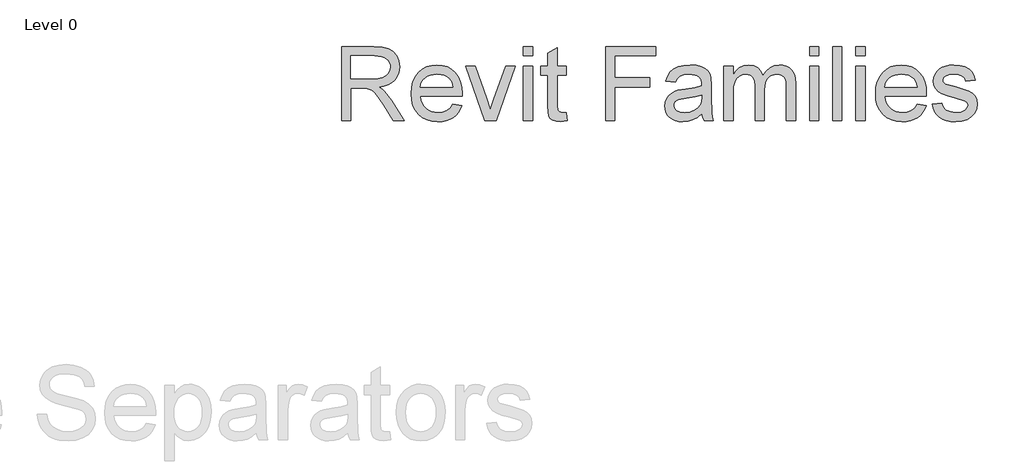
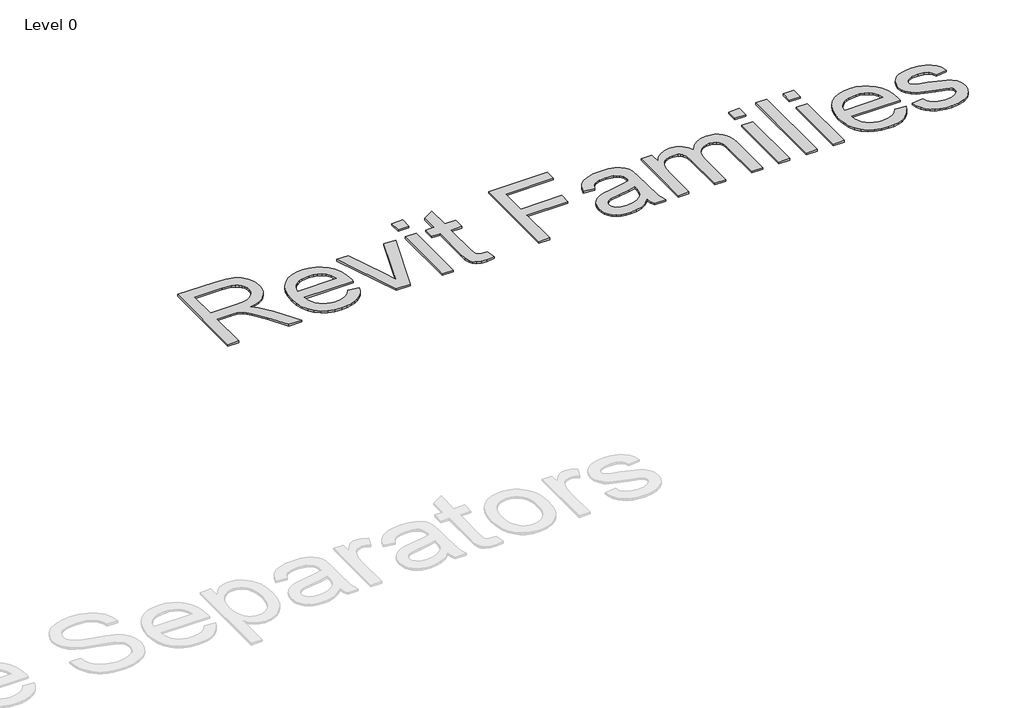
# One storey, part 8 of 15: 1 proxy.
"""IFC4 building model written with IfcOpenShell, lengths in millimetres."""

import ifcopenshell
import ifcopenshell.guid

model = None  # the IFC model being written
_history = None  # IfcOwnerHistory: only IFC2X3 demands one
_inside = {}  # id of a spatial element -> (the spatial element, [elements in it])
_under = {}  # id of a project, library or spatial element -> (it, [spatial elements below it])
_declared = {}  # id of a project -> (the project, [libraries it declares])
_typed = {}  # id of a type object -> (the type object, [elements of that type])
_made_of = {}  # id of a material, layer set ... -> (it, [elements and type objects made of it])


def new_model(schema):
    """Start an empty IFC model of exactly this schema.

    Asked for "IFC4X3", IfcOpenShell would pick the latest addendum, in which some entities
    have other attributes; the version numbers below select the first issue.
    IFC2X3 requires an IfcOwnerHistory on every rooted entity: one is made here for all.
    """
    global model, _history
    if schema == "IFC4X3":
        model = ifcopenshell.file(schema_version=(4, 3, 0, 0))
    else:
        model = ifcopenshell.file(schema=schema)
    _inside.clear()
    _under.clear()
    _declared.clear()
    _typed.clear()
    _made_of.clear()
    _history = None
    if model.schema == "IFC2X3":
        org = make("IfcOrganization", Name="unknown")
        user = make(
            "IfcPersonAndOrganization",
            ThePerson=make("IfcPerson", FamilyName="unknown"),
            TheOrganization=org,
        )
        app = make(
            "IfcApplication",
            ApplicationDeveloper=org,
            Version="unknown",
            ApplicationFullName="unknown",
            ApplicationIdentifier="unknown",
        )
        _history = make(
            "IfcOwnerHistory",
            OwningUser=user,
            OwningApplication=app,
            ChangeAction="ADDED",
            CreationDate=0,
        )
    return model


def make(cls, **values):
    """One entity of the class cls with the attributes given. An attribute that is None is left unset."""
    return model.create_entity(
        cls, **{name: value for name, value in values.items() if value is not None}
    )


def rooted(cls, **values):
    """An entity with a GlobalId (a new one), such as an element, a storey or a relation."""
    return make(cls, GlobalId=ifcopenshell.guid.new(), OwnerHistory=_history, **values)


def si_unit(unit_type, name, prefix=None):
    """IfcSIUnit, for example si_unit("LENGTHUNIT", "METRE", prefix="MILLI")."""
    return make("IfcSIUnit", UnitType=unit_type, Prefix=prefix, Name=name)


def assignment(units):
    """IfcUnitAssignment: the units of a project."""
    return None if units is None else make("IfcUnitAssignment", Units=units)


def point(xyz):
    """IfcCartesianPoint."""
    return None if xyz is None else make("IfcCartesianPoint", Coordinates=xyz)


def direction(xyz):
    """IfcDirection."""
    return None if xyz is None else make("IfcDirection", DirectionRatios=xyz)


def frame(location, z_axis=None, x_axis=None):
    """IfcAxis2Placement3D, a coordinate frame: its origin and axes. An axis left out is left unset."""
    return make(
        "IfcAxis2Placement3D",
        Location=point(location),
        Axis=direction(z_axis),
        RefDirection=direction(x_axis),
    )


def origin():
    """The frame at (0, 0, 0) with its axes left unset."""
    return frame((0.0, 0.0, 0.0))


def origin_with_axes():
    """The frame at (0, 0, 0) with the z axis (0, 0, 1) and the x axis (1, 0, 0) written out."""
    return frame((0.0, 0.0, 0.0), z_axis=(0.0, 0.0, 1.0), x_axis=(1.0, 0.0, 0.0))


def place(relative_to, where):
    """IfcLocalPlacement: puts the frame where relative to a parent placement (None: the world)."""
    return make(
        "IfcLocalPlacement", PlacementRelTo=relative_to, RelativePlacement=where
    )


def context(
    kind, dimensions, precision=None, world=None, true_north=None, identifier=None
):
    """IfcGeometricRepresentationContext, for example the 3D "Model" context."""
    return make(
        "IfcGeometricRepresentationContext",
        ContextIdentifier=identifier,
        ContextType=kind,
        CoordinateSpaceDimension=dimensions,
        Precision=precision,
        WorldCoordinateSystem=world,
        TrueNorth=true_north,
    )


def project(units=None, contexts=None):
    """IfcProject with its units and contexts."""
    return rooted(
        "IfcProject",
        Name="project",
        RepresentationContexts=contexts,
        UnitsInContext=assignment(units),
    )


def spatial(cls, under=None, at=None, **own):
    """A site, building, storey or space (cls), placed at a placement, below another one or the project."""
    s = rooted(cls, ObjectPlacement=at, **own)
    if under is not None:
        _under.setdefault(under.id(), (under, []))[1].append(s)
    return s


def polyline(points):
    """IfcPolyline through the points."""
    return make("IfcPolyline", Points=[point(p) for p in points])


def outline(outer, holes=None, kind="AREA"):
    """IfcArbitraryClosedProfileDef: a profile drawn as a closed curve; with holes, ...WithVoids."""
    if holes is None:
        return make("IfcArbitraryClosedProfileDef", ProfileType=kind, OuterCurve=outer)
    return make(
        "IfcArbitraryProfileDefWithVoids",
        ProfileType=kind,
        OuterCurve=outer,
        InnerCurves=holes,
    )


def extrude(swept, where, along, depth):
    """IfcExtrudedAreaSolid: the profile swept, set in the frame where, extruded along a direction by depth."""
    return make(
        "IfcExtrudedAreaSolid",
        SweptArea=swept,
        Position=where,
        ExtrudedDirection=direction(along),
        Depth=depth,
    )


def shape(context_of_items, identifier, shape_type, items):
    """IfcShapeRepresentation: the items that make up one representation, for example the "Body"."""
    return make(
        "IfcShapeRepresentation",
        ContextOfItems=context_of_items,
        RepresentationIdentifier=identifier,
        RepresentationType=shape_type,
        Items=items,
    )


def made_of(thing, what):
    """Note that an element or type object is made of a material, layer set ...; save() writes the relation."""
    if what is not None:
        _made_of.setdefault(what.id(), (what, []))[1].append(thing)
    return thing


def element(
    cls,
    number,
    at=None,
    inside=None,
    cuts=None,
    type_object=None,
    material=None,
    context=None,
    identifier="Body",
    shape_type=None,
    held_by="IfcProductDefinitionShape",
    body=None,
    shapes=None,
    **own,
):
    """One element of the class cls, such as IfcWall. Its Tag is "e" and its number.

    at: its placement. inside: the storey or other place that contains it. cuts: it is an
    opening in that element (IfcRelVoidsElement). A single representation is given by context,
    identifier, shape_type and body (its items); several are given by shapes. held_by: the class
    of the entity that holds the representations. save() writes the other relations.
    """
    e = rooted(cls, Tag="e%d" % number, ObjectPlacement=at, **own)
    if body is not None:
        shapes = [shape(context, identifier, shape_type, body)]
    if shapes is not None:
        e.Representation = make(held_by, Representations=shapes)
    if inside is not None:
        _inside.setdefault(inside.id(), (inside, []))[1].append(e)
    if cuts is not None:
        rooted(
            "IfcRelVoidsElement", RelatingBuildingElement=cuts, RelatedOpeningElement=e
        )
    if type_object is not None:
        _typed.setdefault(type_object.id(), (type_object, []))[1].append(e)
    return made_of(e, material)


def aggregate(whole, parts):
    """IfcRelAggregates: a whole, such as a stair, and the parts it consists of."""
    return rooted("IfcRelAggregates", RelatingObject=whole, RelatedObjects=parts)


def save(model, path):
    """Write the relations noted so far, then the file.

    IfcRelAggregates (storeys below a building ...), IfcRelContainedInSpatialStructure (elements
    in a storey), IfcRelDefinesByType, IfcRelAssociatesMaterial and IfcRelDeclares: one each for
    every whole, place, type object, material and project.
    """
    for whole, parts in _under.values():
        aggregate(whole, parts)
    for where, things in _inside.values():
        rooted(
            "IfcRelContainedInSpatialStructure",
            RelatedElements=things,
            RelatingStructure=where,
        )
    for kind, things in _typed.values():
        rooted("IfcRelDefinesByType", RelatedObjects=things, RelatingType=kind)
    for what, things in _made_of.values():
        rooted("IfcRelAssociatesMaterial", RelatedObjects=things, RelatingMaterial=what)
    for by, libraries in _declared.values():
        rooted("IfcRelDeclares", RelatingContext=by, RelatedDefinitions=libraries)
    model.write(path)


model = new_model("IFC4")

# Units and contexts
model_context = context("Model", 3, world=origin())
ifc_project = project(units=[si_unit("LENGTHUNIT", "METRE", prefix="MILLI")], contexts=[model_context])

# Site, building, storey
site = spatial("IfcSite", under=ifc_project)
building = spatial("IfcBuilding", under=site)
storey = spatial("IfcBuildingStorey", under=building, Name="Level 0", Elevation=0.0)

# Proxy
placement = place(None, origin())
element("IfcBuildingElementProxy", 1, Name="600mm Arial", ObjectType="600mm Arial", at=placement, inside=storey, context=model_context, shape_type="SweptSolid", body=[
    extrude(outline(polyline([(-8637.1018415, 14819.3449091), (-8637.1018415, 15321.6264599), (-8420.664601, 15321.6264599), (-8362.4932606, 15318.2388799), (-8320.1715027, 15308.0761397), (-8289.2387583, 15289.314158), (-8265.2344581, 15260.128853), (-8249.8293995, 15223.9384618), (-8244.69438, 15184.161221), (-8246.8211978, 15158.3634961), (-8253.2016511, 15134.6810927), (-8263.8357401, 15113.1140107), (-8278.7234646, 15093.6622502), (-8298.0564298, 15076.9466121), (-8322.0262411, 15063.5878971), (-8350.6328983, 15053.5861054), (-8383.8764015, 15046.9412368), (-8363.1830393, 15033.4215735), (-8348.191848, 15020.0858512), (-8297.3015053, 14955.4612474), (-8213.5470378, 14819.3449091), (-8286.5103001, 14819.3449091), (-8351.8706679, 14923.4555138), (-8399.0821907, 14992.3720742), (-8416.6332275, 15012.4676282), (-8432.2528839, 15024.9296308), (-8462.1126392, 15036.8857956), (-8498.5329567, 15039.0930876), (-8574.3166477, 15039.0930876), (-8574.3166477, 14819.3449091), (-8637.1018415, 14819.3449091)]), holes=[polyline([(-8574.3166477, 15101.8782814), (-8433.7857255, 15101.8782814), (-8393.426005, 15104.1009018), (-8362.1100501, 15110.768763), (-8338.5349456, 15122.326389), (-8321.397776, 15139.2183039), (-8310.9591244, 15159.6510831), (-8307.4795739, 15181.8313017), (-8309.1388749, 15197.887818), (-8314.1167782, 15212.4574778), (-8322.4132836, 15225.5402813), (-8334.0283912, 15237.1362283), (-8349.2303482, 15246.6321823), (-8368.287402, 15253.4150066), (-8417.9667997, 15258.841266), (-8574.3166477, 15258.841266), (-8574.3166477, 15101.8782814)])]), origin_with_axes(), (0.0, 0.0, 1.0), 10.0),
    extrude(outline(polyline([(-7884.4152794, 14929.2189984), (-7822.8563589, 14921.3708491), (-7832.2948313, 14896.7150913), (-7845.0365775, 14874.9870609), (-7861.0815974, 14856.1867581), (-7880.4298911, 14840.3141829), (-7902.8821891, 14827.7065603), (-7928.2392221, 14818.7011157), (-7956.5009899, 14813.2978488), (-7987.6674927, 14811.4967599), (-8026.6246632, 14814.6045964), (-8061.3358622, 14823.9281057), (-8091.80109, 14839.4672879), (-8118.0203463, 14861.2221429), (-8139.1045832, 14888.5871984), (-8154.1647524, 14920.9569819), (-8163.2008539, 14958.3314933), (-8166.2128877, 15000.7107328), (-8163.170197, 15044.5270112), (-8154.042125, 15083.1469565), (-8138.8286717, 15116.5705686), (-8117.529837, 15144.7978475), (-8091.3795585, 15167.2233208), (-8061.6117737, 15183.241516), (-8028.2264827, 15192.8524332), (-7991.2236853, 15196.0560722), (-7955.4126724, 15192.8600974), (-7923.0275605, 15183.2721729), (-7894.0683497, 15167.2922987), (-7868.5350399, 15144.9204749), (-7847.6922257, 15116.7545096), (-7832.8045012, 15083.3922112), (-7823.8718665, 15044.8335796), (-7820.8943216, 15001.0786148), (-7821.2622036, 14984.156043), (-8103.4276939, 14984.156043), (-8099.7910271, 14959.1017463), (-8092.5598466, 14937.1591181), (-8081.7341525, 14918.3281585), (-8067.3139447, 14902.6088674), (-8050.0963009, 14890.2158427), (-8030.8782987, 14881.3636822), (-8009.6599382, 14876.0523859), (-7986.4412194, 14874.2819538), (-7953.0252715, 14877.5622349), (-7924.8822989, 14887.4030783), (-7902.0123015, 14904.4176205), (-7884.4152794, 14929.2189984)]), holes=[polyline([(-8103.4276939, 15046.9412368), (-7883.6795154, 15046.9412368), (-7892.1714581, 15080.1119301), (-7908.8181184, 15103.8403187), (-7925.9399596, 15116.7161886), (-7945.4223769, 15125.9132385), (-7967.2653704, 15131.4314684), (-7991.46894, 15133.2708784), (-8033.7906979, 15127.4000949), (-8052.2039581, 15120.0616155), (-8068.7854727, 15109.7877443), (-8082.6998427, 15097.0536624), (-8093.1116696, 15082.3345504), (-8100.0209533, 15065.6304086), (-8103.4276939, 15046.9412368)])]), origin_with_axes(), (0.0, 0.0, 1.0), 10.0),
    extrude(outline(polyline([(-7667.6101569, 14819.3449091), (-7797.3498739, 15188.207923), (-7730.8858601, 15188.207923), (-7652.2817404, 14967.2334712), (-7628.6146654, 14892.9213082), (-7605.4380997, 14963.0641419), (-7526.3434708, 15188.207923), (-7459.879457, 15188.207923), (-7588.0250186, 14819.3449091), (-7667.6101569, 14819.3449091)])), origin_with_axes(), (0.0, 0.0, 1.0), 10.0),
    extrude(outline(polyline([(-7404.9424124, 14819.3449091), (-7404.9424124, 15188.207923), (-7342.1572185, 15188.207923), (-7342.1572185, 14819.3449091), (-7404.9424124, 14819.3449091)])), origin_with_axes(), (0.0, 0.0, 1.0), 10.0),
    extrude(outline(polyline([(-7404.9424124, 15258.841266), (-7404.9424124, 15321.6264599), (-7342.1572185, 15321.6264599), (-7342.1572185, 15258.841266), (-7404.9424124, 15258.841266)])), origin_with_axes(), (0.0, 0.0, 1.0), 10.0),
    extrude(outline(polyline([(-7114.5608908, 14871.7067798), (-7106.7127416, 14817.5054992), (-7153.6790096, 14811.4967599), (-7183.8146764, 14814.1025907), (-7206.286135, 14821.9200831), (-7222.1663744, 14833.9682185), (-7232.5283839, 14849.2659781), (-7238.2305549, 14875.5388839), (-7240.1312785, 14920.5124578), (-7240.1312785, 15125.4227291), (-7287.2201739, 15125.4227291), (-7287.2201739, 15188.207923), (-7240.1312785, 15188.207923), (-7240.1312785, 15277.8485025), (-7177.3460847, 15314.7593293), (-7177.3460847, 15188.207923), (-7114.5608908, 15188.207923), (-7114.5608908, 15125.4227291), (-7177.3460847, 15125.4227291), (-7177.3460847, 14922.3518678), (-7174.0351467, 14889.9782522), (-7163.3052552, 14878.5125967), (-7141.9067858, 14874.2819538), (-7114.5608908, 14871.7067798)])), origin_with_axes(), (0.0, 0.0, 1.0), 10.0),
    extrude(outline(polyline([(-6847.723817, 14819.3449091), (-6847.723817, 15321.6264599), (-6510.2534001, 15321.6264599), (-6510.2534001, 15258.841266), (-6784.9386231, 15258.841266), (-6784.9386231, 15109.7264307), (-6549.4941462, 15109.7264307), (-6549.4941462, 15046.9412368), (-6784.9386231, 15046.9412368), (-6784.9386231, 14819.3449091), (-6847.723817, 14819.3449091)])), origin_with_axes(), (0.0, 0.0, 1.0), 10.0),
    extrude(outline(polyline([(-6196.3274309, 14866.4338045), (-6226.3251419, 14840.7127217), (-6257.2119011, 14823.8821204), (-6289.6928156, 14814.5931), (-6324.4729925, 14811.4967599), (-6352.428192, 14813.3591625), (-6376.9421621, 14818.9463703), (-6398.0149026, 14828.2583833), (-6415.6464137, 14841.2952015), (-6429.5684479, 14857.2290904), (-6439.5127581, 14875.2323156), (-6445.4793442, 14895.3048769), (-6447.4682062, 14917.4467745), (-6444.4638366, 14943.4744257), (-6435.4507277, 14967.1108439), (-6421.547854, 14987.3443536), (-6403.8741898, 15003.1632794), (-6383.1041855, 15015.1194442), (-6359.9122914, 15023.7646711), (-6305.5883834, 15033.2069757), (-6241.3929753, 15043.1397895), (-6196.6953129, 15054.7893861), (-6196.3274309, 15068.7689019), (-6200.6500443, 15096.7892472), (-6213.6178846, 15115.1220333), (-6226.6930239, 15123.062153), (-6242.6192486, 15128.7336671), (-6283.0249544, 15133.2708784), (-6320.4262906, 15130.2511803), (-6346.5459122, 15121.1920862), (-6364.3575322, 15104.438127), (-6376.8348632, 15078.3338337), (-6439.620057, 15086.181983), (-6428.7215529, 15120.5176359), (-6412.458103, 15147.4956488), (-6389.3121942, 15168.1276974), (-6357.7663131, 15183.425457), (-6319.1846888, 15192.8984184), (-6274.9315505, 15196.0560722), (-6232.4871653, 15193.2663004), (-6198.8412912, 15184.896985), (-6173.4727619, 15172.3123551), (-6155.8604114, 15156.8766397), (-6144.1801581, 15137.7927612), (-6136.6079203, 15114.2636419), (-6133.542237, 15059.3265973), (-6133.542237, 14981.212987), (-6130.3539264, 14872.1359755), (-6125.6327741, 14845.1732909), (-6117.8459386, 14819.3449091), (-6180.6311324, 14819.3449091), (-6190.6865736, 14841.1725742), (-6196.3274309, 14866.4338045)]), holes=[polyline([(-6196.3274309, 14992.0041922), (-6238.511233, 14981.5502122), (-6297.6176069, 14972.7517011), (-6351.6349465, 14962.5736326), (-6365.6911044, 14955.6145315), (-6376.0990992, 14946.0189428), (-6382.5370341, 14934.5226305), (-6384.6830124, 14921.8613585), (-6380.0078454, 14903.1913472), (-6365.9823443, 14887.8935876), (-6342.9130775, 14877.6848622), (-6311.1066134, 14874.2819538), (-6277.3840971, 14878.0374158), (-6247.5856555, 14889.3038019), (-6223.4280712, 14905.9044769), (-6206.6281267, 14925.6628057), (-6199.1785163, 14946.0189428), (-6196.6953129, 14974.2232291), (-6196.3274309, 14992.0041922)])]), origin_with_axes(), (0.0, 0.0, 1.0), 10.0),
    extrude(outline(polyline([(-6047.2125955, 14819.3449091), (-6047.2125955, 15188.207923), (-5984.4274016, 15188.207923), (-5984.4274016, 15127.5073938), (-5965.5427926, 15155.3897833), (-5941.2625809, 15177.2327768), (-5912.4145011, 15191.3502483), (-5879.8262877, 15196.0560722), (-5844.908155, 15191.2582778), (-5816.9184665, 15176.8648948), (-5796.0105064, 15153.8262848), (-5782.337559, 15123.0928098), (-5759.4522332, 15155.0142371), (-5733.3479399, 15177.8152566), (-5704.0246792, 15191.4958683), (-5671.4824511, 15196.0560722), (-5646.3476802, 15194.1591807), (-5624.2862568, 15188.4685061), (-5605.2981809, 15178.9840484), (-5589.3834525, 15165.7058076), (-5576.8026547, 15148.4804996), (-5567.8163705, 15127.1548402), (-5562.4246, 15101.7288294), (-5560.6273432, 15072.2024672), (-5560.6273432, 14819.3449091), (-5623.412537, 14819.3449091), (-5623.412537, 15045.2244542), (-5624.8687366, 15076.540409), (-5629.2373353, 15097.6476385), (-5637.4227097, 15112.1023352), (-5650.3292364, 15123.4606918), (-5666.9299114, 15130.8183317), (-5686.1977309, 15133.2708784), (-5703.9901903, 15131.6997157), (-5720.211487, 15126.9862276), (-5734.8616211, 15119.1304142), (-5747.9405924, 15108.1322754), (-5758.6973087, 15093.6699144), (-5766.3806774, 15075.4214346), (-5770.9906987, 15053.3868359), (-5772.5273724, 15027.5661184), (-5772.5273724, 14819.3449091), (-5835.3125663, 14819.3449091), (-5835.3125663, 15052.2142121), (-5838.945401, 15087.7148246), (-5849.8439051, 15113.0373686), (-5858.270702, 15121.8895291), (-5869.0197541, 15128.2125009), (-5897.4846235, 15133.2708784), (-5921.6728646, 15129.8986267), (-5943.9603822, 15119.7818719), (-5962.3544819, 15103.1658684), (-5974.8624698, 15080.2958711), (-5982.0361687, 15048.566049), (-5984.4274016, 15005.3705714), (-5984.4274016, 14819.3449091), (-6047.2125955, 14819.3449091)])), origin_with_axes(), (0.0, 0.0, 1.0), 10.0),
    extrude(outline(polyline([(-5466.4495524, 15258.841266), (-5466.4495524, 15321.6264599), (-5403.6643586, 15321.6264599), (-5403.6643586, 15258.841266), (-5466.4495524, 15258.841266)])), origin_with_axes(), (0.0, 0.0, 1.0), 10.0),
    extrude(outline(polyline([(-5466.4495524, 14819.3449091), (-5466.4495524, 15188.207923), (-5403.6643586, 15188.207923), (-5403.6643586, 14819.3449091), (-5466.4495524, 14819.3449091)])), origin_with_axes(), (0.0, 0.0, 1.0), 10.0),
    extrude(outline(polyline([(-5309.4865678, 14819.3449091), (-5309.4865678, 15321.6264599), (-5246.701374, 15321.6264599), (-5246.701374, 14819.3449091), (-5309.4865678, 14819.3449091)])), origin_with_axes(), (0.0, 0.0, 1.0), 10.0),
    extrude(outline(polyline([(-5152.5235832, 15258.841266), (-5152.5235832, 15321.6264599), (-5089.7383894, 15321.6264599), (-5089.7383894, 15258.841266), (-5152.5235832, 15258.841266)])), origin_with_axes(), (0.0, 0.0, 1.0), 10.0),
    extrude(outline(polyline([(-5152.5235832, 14819.3449091), (-5152.5235832, 15188.207923), (-5089.7383894, 15188.207923), (-5089.7383894, 14819.3449091), (-5152.5235832, 14819.3449091)])), origin_with_axes(), (0.0, 0.0, 1.0), 10.0),
    extrude(outline(polyline([(-4737.307438, 14929.2189984), (-4675.7485175, 14921.3708491), (-4685.1869899, 14896.7150913), (-4697.9287361, 14874.9870609), (-4713.973756, 14856.1867581), (-4733.3220497, 14840.3141829), (-4755.7743477, 14827.7065603), (-4781.1313807, 14818.7011157), (-4809.3931485, 14813.2978488), (-4840.5596513, 14811.4967599), (-4879.5168218, 14814.6045964), (-4914.2280208, 14823.9281057), (-4944.6932486, 14839.4672879), (-4970.9125049, 14861.2221429), (-4991.9967418, 14888.5871984), (-5007.056911, 14920.9569819), (-5016.0930125, 14958.3314933), (-5019.1050463, 15000.7107328), (-5016.0623556, 15044.5270112), (-5006.9342836, 15083.1469565), (-4991.7208303, 15116.5705686), (-4970.4219956, 15144.7978475), (-4944.2717171, 15167.2233208), (-4914.5039323, 15183.241516), (-4881.1186413, 15192.8524332), (-4844.1158439, 15196.0560722), (-4808.304831, 15192.8600974), (-4775.9197191, 15183.2721729), (-4746.9605083, 15167.2922987), (-4721.4271985, 15144.9204749), (-4700.5843842, 15116.7545096), (-4685.6966598, 15083.3922112), (-4676.7640251, 15044.8335796), (-4673.7864802, 15001.0786148), (-4674.1543622, 14984.156043), (-4956.3198525, 14984.156043), (-4952.6831857, 14959.1017463), (-4945.4520052, 14937.1591181), (-4934.6263111, 14918.3281585), (-4920.2061033, 14902.6088674), (-4902.9884595, 14890.2158427), (-4883.7704573, 14881.3636822), (-4862.5520968, 14876.0523859), (-4839.333378, 14874.2819538), (-4805.9174301, 14877.5622349), (-4777.7744575, 14887.4030783), (-4754.9044601, 14904.4176205), (-4737.307438, 14929.2189984)]), holes=[polyline([(-4956.3198525, 15046.9412368), (-4736.571674, 15046.9412368), (-4745.0636167, 15080.1119301), (-4761.710277, 15103.8403187), (-4778.8321182, 15116.7161886), (-4798.3145355, 15125.9132385), (-4820.157529, 15131.4314684), (-4844.3610986, 15133.2708784), (-4886.6828565, 15127.4000949), (-4905.0961167, 15120.0616155), (-4921.6776312, 15109.7877443), (-4935.5920013, 15097.0536624), (-4946.0038282, 15082.3345504), (-4952.9131119, 15065.6304086), (-4956.3198525, 15046.9412368)])]), origin_with_axes(), (0.0, 0.0, 1.0), 10.0),
    extrude(outline(polyline([(-4634.545734, 14929.2189984), (-4571.7605402, 14937.0671476), (-4561.8583831, 14910.211762), (-4542.6978625, 14890.4687615), (-4514.1563511, 14878.3286557), (-4476.1112214, 14874.2819538), (-4438.5259442, 14877.9914305), (-4412.0997543, 14889.1198609), (-4396.4647695, 14905.245355), (-4391.2531079, 14923.9460231), (-4396.4954263, 14939.9488899), (-4412.2223816, 14952.1503094), (-4476.8469854, 14970.0538998), (-4534.1446062, 14986.623918), (-4571.3926582, 15000.7720464), (-4595.3203163, 15016.2077618), (-4612.6567553, 15036.640541), (-4623.1873774, 15060.7674685), (-4626.6975848, 15087.285629), (-4623.8771561, 15111.6118259), (-4615.4158703, 15134.067956), (-4602.0801479, 15153.7649712), (-4584.63641, 15169.8138232), (-4567.299971, 15179.9152497), (-4544.7212135, 15188.391864), (-4518.6169203, 15194.1400201), (-4490.7038739, 15196.0560722), (-4449.8383156, 15192.9750605), (-4414.3070462, 15183.7320254), (-4385.7348779, 15169.2313434), (-4365.7466229, 15150.3773911), (-4352.502871, 15125.7752827), (-4344.1642125, 15094.0301322), (-4406.9494063, 15086.181983), (-4414.8741976, 15105.9403118), (-4430.5551677, 15120.8242042), (-4454.1456006, 15130.1592098), (-4485.7987806, 15133.2708784), (-4521.8512162, 15130.2971656), (-4545.8861732, 15121.3760272), (-4559.4058365, 15108.5001574), (-4563.9123909, 15093.6622502), (-4562.0423241, 15084.0053478), (-4556.4321237, 15075.3907778), (-4546.836535, 15067.6959127), (-4533.0103033, 15061.5338893), (-4478.9316501, 15048.1675101), (-4386.7772103, 15018.6143232), (-4362.4356849, 15004.4815232), (-4343.9802715, 14985.1370616), (-4332.3460034, 14960.5196248), (-4328.467914, 14930.567899), (-4333.0204537, 14899.6044978), (-4346.6780728, 14870.4805065), (-4368.9196051, 14845.4798592), (-4399.2238844, 14826.88649), (-4435.8281429, 14815.3441924), (-4476.9696127, 14811.4967599), (-4510.7611068, 14813.3514983), (-4540.2759727, 14818.9157135), (-4565.5142105, 14828.1894054), (-4586.47582, 14841.1725742), (-4603.5976612, 14857.8039061), (-4617.3165939, 14878.0220874), (-4627.6326182, 14901.8271181), (-4634.545734, 14929.2189984)])), origin_with_axes(), (0.0, 0.0, 1.0), 10.0),
])

save(model, "model.ifc")
